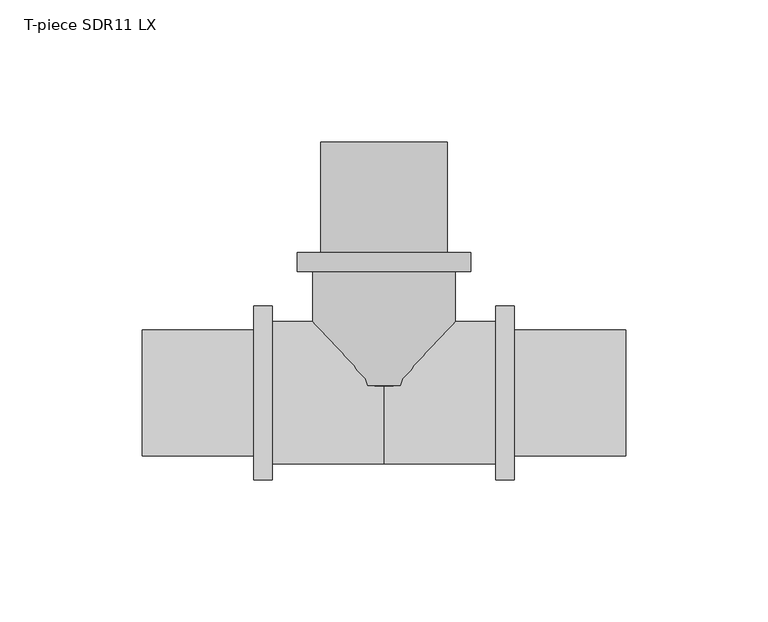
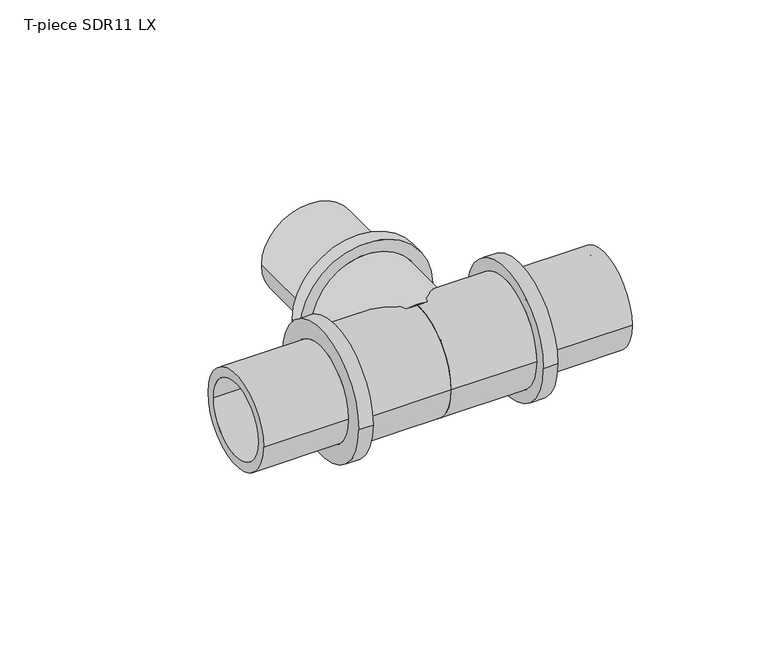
"""IFC4 building model written with IfcOpenShell, lengths in millimetres: pipe fitting geometry, T-piece SDR11 LX : T-piece LX SDR11 LX."""

from ifc_helpers import new_model, si_unit, point, frame, origin, place, context, project, spatial, polyline, circle_curve, ellipse_curve, trimmed, source, transform, mapped, element, save
from ifc_brep_helpers import plane_surface, cylinder_surface, revolved_surface, advanced_brep


def t_piece_sdr11_lx_c61b86e7(model_context):
    return source(origin(), model_context, "Body", "AdvancedBrep", [
        advanced_brep(
        [(25.0, 2.6142056, 0.0), (-25.0, 2.6142056, 0.0), (-25.0, 42.6, 0.0), (25.0, 42.6, 0.0), (17.75, 88.0, 0.0), (-17.75, 88.0, 0.0), (-17.75, 0.0, 0.0), (17.75, 0.0, 0.0), (22.15, 49.2, 0.0), (-22.15, 49.2, 0.0), (-22.15, 88.0, 0.0), (22.15, 88.0, 0.0), (30.5, 42.6, 0.0), (-30.5, 42.6, 0.0), (-30.5, 49.2, 0.0), (30.5, 49.2, 0.0)],
        [
            (0, 1, circle_curve(frame((0.0, 2.6142056, 0.0), z_axis=(0.0, 1.0, 0.0), x_axis=(-1.0, 0.0, 0.0)), 25.0)),
            (1, 2),
            (2, 3, circle_curve(frame((0.0, 42.6, 0.0), z_axis=(0.0, -1.0, 0.0), x_axis=(-1.0, 0.0, 0.0)), 25.0)),
            (3, 0),
            (4, 5, circle_curve(frame((0.0, 88.0, 0.0), z_axis=(0.0, 1.0, 0.0), x_axis=(-1.0, 0.0, 0.0)), 17.75)),
            (5, 6),
            (6, 7, circle_curve(frame((0.0, 0.0, 0.0), z_axis=(0.0, -1.0, 0.0), x_axis=(-1.0, 0.0, 0.0)), 17.75)),
            (7, 4),
            (8, 9, circle_curve(frame((0.0, 49.2, 0.0), z_axis=(0.0, 1.0, 0.0), x_axis=(-1.0, 0.0, 0.0)), 22.15)),
            (9, 10),
            (10, 11, circle_curve(frame((0.0, 88.0, 0.0), z_axis=(0.0, -1.0, 0.0), x_axis=(-1.0, 0.0, 0.0)), 22.15)),
            (11, 8),
            (12, 13, circle_curve(frame((0.0, 42.6, 0.0), z_axis=(0.0, 1.0, 0.0), x_axis=(-1.0, 0.0, 0.0)), 30.5)),
            (13, 14),
            (14, 15, circle_curve(frame((0.0, 49.2, 0.0), z_axis=(0.0, -1.0, 0.0), x_axis=(-1.0, 0.0, 0.0)), 30.5)),
            (15, 12),
            (12, 13, circle_curve(frame((0.0, 42.6, 0.0), z_axis=(0.0, -1.0, 0.0), x_axis=(1.0, 0.0, 0.0)), 30.5)),
            (2, 3, circle_curve(frame((0.0, 42.6, 0.0), z_axis=(0.0, 1.0, 0.0), x_axis=(1.0, 0.0, 0.0)), 25.0)),
            (1, 0, circle_curve(frame((0.0, 2.6142056, 0.0), z_axis=(0.0, 1.0, 0.0), x_axis=(1.0, 0.0, 0.0)), 25.0)),
            (5, 4, circle_curve(frame((0.0, 88.0, 0.0), z_axis=(0.0, 1.0, 0.0), x_axis=(1.0, 0.0, 0.0)), 17.75)),
            (7, 6, circle_curve(frame((0.0, 0.0, 0.0), z_axis=(0.0, -1.0, 0.0), x_axis=(1.0, 0.0, 0.0)), 17.75)),
            (10, 11, circle_curve(frame((0.0, 88.0, 0.0), z_axis=(0.0, 1.0, 0.0), x_axis=(1.0, 0.0, 0.0)), 22.15)),
            (9, 8, circle_curve(frame((0.0, 49.2, 0.0), z_axis=(0.0, 1.0, 0.0), x_axis=(1.0, 0.0, 0.0)), 22.15)),
            (14, 15, circle_curve(frame((0.0, 49.2, 0.0), z_axis=(0.0, 1.0, 0.0), x_axis=(1.0, 0.0, 0.0)), 30.5)),
            (6, 1, circle_curve(frame((-12.9962802, 24.5438821, 0.0), z_axis=(0.0, 0.0, -1.0), x_axis=(0.0, -1.0, 0.0)), 25.0)),
            (0, 7, circle_curve(frame((12.9962802, 24.5438821, 0.0), z_axis=(0.0, 0.0, -1.0), x_axis=(0.0, -1.0, 0.0)), 25.0)),
        ],
        [
            cylinder_surface(frame((0.0, 0.0, 0.0), z_axis=(0.0, -1.0, 0.0), x_axis=(-1.0, 0.0, 0.0)), 25.0),
            revolved_surface(polyline([(-17.75, 0.0, 0.0), (-17.75, 88.0, 0.0)]), (0.0, 0.0, 0.0), (0.0, -1.0, 0.0)),
            cylinder_surface(frame((0.0, 0.0, 0.0), z_axis=(0.0, -1.0, 0.0), x_axis=(-1.0, 0.0, 0.0)), 22.15),
            cylinder_surface(frame((0.0, 0.0, 0.0), z_axis=(0.0, -1.0, 0.0), x_axis=(-1.0, 0.0, 0.0)), 30.5),
            plane_surface(frame((0.0, 42.6, 0.0), z_axis=(0.0, -1.0, 0.0), x_axis=(1.0, 0.0, 0.0))),
            cylinder_surface(frame((0.0, 0.0, 0.0), z_axis=(0.0, -1.0, 0.0), x_axis=(1.0, 0.0, 0.0)), 25.0),
            revolved_surface(polyline([(17.75, 0.0, 0.0), (17.75, 88.0, 0.0)]), (0.0, 0.0, 0.0), (0.0, -1.0, 0.0)),
            plane_surface(frame((0.0, 88.0, 0.0), z_axis=(0.0, 1.0, 0.0), x_axis=(1.0, 0.0, 0.0))),
            cylinder_surface(frame((0.0, 0.0, 0.0), z_axis=(0.0, -1.0, 0.0), x_axis=(1.0, 0.0, 0.0)), 22.15),
            plane_surface(frame((0.0, 49.2, 0.0), z_axis=(0.0, 1.0, 0.0), x_axis=(1.0, 0.0, 0.0))),
            cylinder_surface(frame((0.0, 0.0, 0.0), z_axis=(0.0, -1.0, 0.0), x_axis=(1.0, 0.0, 0.0)), 30.5),
            revolved_surface(trimmed(ellipse_curve(frame((-12.9962802, 24.5438821, 0.0), z_axis=(0.0, 0.0, 1.0), x_axis=(0.0, -1.0, 0.0)), 25.0, 25.0), [point((-25.0, 2.6142056, 0.0))], [point((-17.75, 0.0, 0.0))], True, "CARTESIAN"), (0.0, 0.0, 0.0), (0.0, -1.0, 0.0)),
            revolved_surface(trimmed(ellipse_curve(frame((12.9962802, 24.5438821, 0.0), z_axis=(0.0, 0.0, -1.0), x_axis=(0.0, -1.0, 0.0)), 25.0, 25.0), [point((25.0, 2.6142056, 0.0))], [point((17.75, 0.0, 0.0))], True, "CARTESIAN"), (0.0, 0.0, 0.0), (0.0, -1.0, 0.0)),
        ],
        [
            (0, [[1, 2, 3, 4]]),
            (1, [[5, 6, 7, 8]]),
            (2, [[9, 10, 11, 12]]),
            (3, [[13, 14, 15, 16]]),
            (4, [[17, -13], [18, -3]]),
            (5, [[19, -4, -18, -2]]),
            (6, [[20, -8, 21, -6]]),
            (7, [[22, -11], [-20, -5]]),
            (8, [[23, -12, -22, -10]]),
            (9, [[24, -15], [-23, -9]]),
            (10, [[-17, -16, -24, -14]]),
            (11, [[-7, 25, -1, 26]]),
            (12, [[-21, -26, -19, -25]]),
        ],
    ),
        advanced_brep(
        [(39.2, 25.0, 0.0), (39.2, -25.0, 0.0), (0.0, -25.0, 0.0), (0.0, 25.0, 0.0), (0.0, 17.75, 0.0), (0.0, -17.75, 0.0), (84.8, -17.75, 0.0), (84.8, 17.75, 0.0), (84.8, 22.15, 0.0), (84.8, -22.15, 0.0), (45.8, -22.15, 0.0), (45.8, 22.15, 0.0), (45.8, 30.5, 0.0), (45.8, -30.5, 0.0), (39.2, -30.5, 0.0), (39.2, 30.5, 0.0)],
        [
            (0, 1, circle_curve(frame((39.2, 0.0, 0.0), z_axis=(-1.0, 0.0, 0.0), x_axis=(0.0, -1.0, 0.0)), 25.0)),
            (1, 2),
            (2, 3, circle_curve(frame((0.0, 0.0, 0.0), z_axis=(1.0, 0.0, 0.0), x_axis=(0.0, -1.0, 0.0)), 25.0)),
            (3, 0),
            (4, 5, circle_curve(frame((0.0, 0.0, 0.0), z_axis=(-1.0, 0.0, 0.0), x_axis=(0.0, -1.0, 0.0)), 17.75)),
            (5, 6),
            (6, 7, circle_curve(frame((84.8, 0.0, 0.0), z_axis=(1.0, 0.0, 0.0), x_axis=(0.0, -1.0, 0.0)), 17.75)),
            (7, 4),
            (8, 9, circle_curve(frame((84.8, 0.0, 0.0), z_axis=(-1.0, 0.0, 0.0), x_axis=(0.0, -1.0, 0.0)), 22.15)),
            (9, 10),
            (10, 11, circle_curve(frame((45.8, 0.0, 0.0), z_axis=(1.0, 0.0, 0.0), x_axis=(0.0, -1.0, 0.0)), 22.15)),
            (11, 8),
            (12, 13, circle_curve(frame((45.8, 0.0, 0.0), z_axis=(-1.0, 0.0, 0.0), x_axis=(0.0, -1.0, 0.0)), 30.5)),
            (13, 14),
            (14, 15, circle_curve(frame((39.2, 0.0, 0.0), z_axis=(1.0, 0.0, 0.0), x_axis=(0.0, -1.0, 0.0)), 30.5)),
            (15, 12),
            (14, 15, circle_curve(frame((39.2, 0.0, 0.0), z_axis=(-1.0, 0.0, 0.0), x_axis=(0.0, 1.0, 0.0)), 30.5)),
            (0, 1, circle_curve(frame((39.2, 0.0, 0.0), z_axis=(1.0, 0.0, 0.0), x_axis=(0.0, 1.0, 0.0)), 25.0)),
            (3, 2, circle_curve(frame((0.0, 0.0, 0.0), z_axis=(1.0, 0.0, 0.0), x_axis=(0.0, 1.0, 0.0)), 25.0)),
            (4, 5, circle_curve(frame((0.0, 0.0, 0.0), z_axis=(1.0, 0.0, 0.0), x_axis=(0.0, 1.0, 0.0)), 17.75)),
            (7, 6, circle_curve(frame((84.8, 0.0, 0.0), z_axis=(1.0, 0.0, 0.0), x_axis=(0.0, 1.0, 0.0)), 17.75)),
            (8, 9, circle_curve(frame((84.8, 0.0, 0.0), z_axis=(1.0, 0.0, 0.0), x_axis=(0.0, 1.0, 0.0)), 22.15)),
            (11, 10, circle_curve(frame((45.8, 0.0, 0.0), z_axis=(1.0, 0.0, 0.0), x_axis=(0.0, 1.0, 0.0)), 22.15)),
            (12, 13, circle_curve(frame((45.8, 0.0, 0.0), z_axis=(1.0, 0.0, 0.0), x_axis=(0.0, 1.0, 0.0)), 30.5)),
        ],
        [
            cylinder_surface(frame((0.0, 0.0, 0.0), z_axis=(1.0, 0.0, 0.0), x_axis=(0.0, -1.0, 0.0)), 25.0),
            revolved_surface(polyline([(84.8, -17.75, 0.0), (0.0, -17.75, 0.0)]), (0.0, 0.0, 0.0), (1.0, 0.0, 0.0)),
            cylinder_surface(frame((0.0, 0.0, 0.0), z_axis=(1.0, 0.0, 0.0), x_axis=(0.0, -1.0, 0.0)), 22.15),
            cylinder_surface(frame((0.0, 0.0, 0.0), z_axis=(1.0, 0.0, 0.0), x_axis=(0.0, -1.0, 0.0)), 30.5),
            plane_surface(frame((39.2, 0.0, 0.0), z_axis=(-1.0, 0.0, 0.0), x_axis=(0.0, 1.0, 0.0))),
            cylinder_surface(frame((0.0, 0.0, 0.0), z_axis=(1.0, 0.0, 0.0), x_axis=(0.0, 1.0, 0.0)), 25.0),
            plane_surface(frame((0.0, 0.0, 0.0), z_axis=(-1.0, 0.0, 0.0), x_axis=(0.0, 1.0, 0.0))),
            revolved_surface(polyline([(84.8, 17.75, 0.0), (0.0, 17.75, 0.0)]), (0.0, 0.0, 0.0), (1.0, 0.0, 0.0)),
            plane_surface(frame((84.8, 0.0, 0.0), z_axis=(1.0, 0.0, 0.0), x_axis=(0.0, 1.0, 0.0))),
            cylinder_surface(frame((0.0, 0.0, 0.0), z_axis=(1.0, 0.0, 0.0), x_axis=(0.0, 1.0, 0.0)), 22.15),
            plane_surface(frame((45.8, 0.0, 0.0), z_axis=(1.0, 0.0, 0.0), x_axis=(0.0, 1.0, 0.0))),
            cylinder_surface(frame((0.0, 0.0, 0.0), z_axis=(1.0, 0.0, 0.0), x_axis=(0.0, 1.0, 0.0)), 30.5),
        ],
        [
            (0, [[1, 2, 3, 4]]),
            (1, [[5, 6, 7, 8]]),
            (2, [[9, 10, 11, 12]]),
            (3, [[13, 14, 15, 16]]),
            (4, [[17, -15], [18, -1]]),
            (5, [[-18, -4, 19, -2]]),
            (6, [[-19, -3], [20, -5]]),
            (7, [[-20, -8, 21, -6]]),
            (8, [[22, -9], [-21, -7]]),
            (9, [[-22, -12, 23, -10]]),
            (10, [[24, -13], [-23, -11]]),
            (11, [[-24, -16, -17, -14]]),
        ],
    ),
        advanced_brep(
        [(0.0, 25.0, 0.0), (0.0, -25.0, 0.0), (-39.2, -25.0, 0.0), (-39.2, 25.0, 0.0), (-84.8, 17.75, 0.0), (-84.8, -17.75, 0.0), (0.0, -17.75, 0.0), (0.0, 17.75, 0.0), (-45.8, 22.15, 0.0), (-45.8, -22.15, 0.0), (-84.8, -22.15, 0.0), (-84.8, 22.15, 0.0), (-39.2, 30.5, 0.0), (-39.2, -30.5, 0.0), (-45.8, -30.5, 0.0), (-45.8, 30.5, 0.0)],
        [
            (0, 1, circle_curve(frame((0.0, 0.0, 0.0), z_axis=(-1.0, 0.0, 0.0), x_axis=(0.0, -1.0, 0.0)), 25.0)),
            (1, 2),
            (2, 3, circle_curve(frame((-39.2, 0.0, 0.0), z_axis=(1.0, 0.0, 0.0), x_axis=(0.0, -1.0, 0.0)), 25.0)),
            (3, 0),
            (4, 5, circle_curve(frame((-84.8, 0.0, 0.0), z_axis=(-1.0, 0.0, 0.0), x_axis=(0.0, -1.0, 0.0)), 17.75)),
            (5, 6),
            (6, 7, circle_curve(frame((0.0, 0.0, 0.0), z_axis=(1.0, 0.0, 0.0), x_axis=(0.0, -1.0, 0.0)), 17.75)),
            (7, 4),
            (8, 9, circle_curve(frame((-45.8, 0.0, 0.0), z_axis=(-1.0, 0.0, 0.0), x_axis=(0.0, -1.0, 0.0)), 22.15)),
            (9, 10),
            (10, 11, circle_curve(frame((-84.8, 0.0, 0.0), z_axis=(1.0, 0.0, 0.0), x_axis=(0.0, -1.0, 0.0)), 22.15)),
            (11, 8),
            (12, 13, circle_curve(frame((-39.2, 0.0, 0.0), z_axis=(-1.0, 0.0, 0.0), x_axis=(0.0, -1.0, 0.0)), 30.5)),
            (13, 14),
            (14, 15, circle_curve(frame((-45.8, 0.0, 0.0), z_axis=(1.0, 0.0, 0.0), x_axis=(0.0, -1.0, 0.0)), 30.5)),
            (15, 12),
            (12, 13, circle_curve(frame((-39.2, 0.0, 0.0), z_axis=(1.0, 0.0, 0.0), x_axis=(0.0, 1.0, 0.0)), 30.5)),
            (2, 3, circle_curve(frame((-39.2, 0.0, 0.0), z_axis=(-1.0, 0.0, 0.0), x_axis=(0.0, 1.0, 0.0)), 25.0)),
            (1, 0, circle_curve(frame((0.0, 0.0, 0.0), z_axis=(-1.0, 0.0, 0.0), x_axis=(0.0, 1.0, 0.0)), 25.0)),
            (6, 7, circle_curve(frame((0.0, 0.0, 0.0), z_axis=(-1.0, 0.0, 0.0), x_axis=(0.0, 1.0, 0.0)), 17.75)),
            (5, 4, circle_curve(frame((-84.8, 0.0, 0.0), z_axis=(-1.0, 0.0, 0.0), x_axis=(0.0, 1.0, 0.0)), 17.75)),
            (10, 11, circle_curve(frame((-84.8, 0.0, 0.0), z_axis=(-1.0, 0.0, 0.0), x_axis=(0.0, 1.0, 0.0)), 22.15)),
            (9, 8, circle_curve(frame((-45.8, 0.0, 0.0), z_axis=(-1.0, 0.0, 0.0), x_axis=(0.0, 1.0, 0.0)), 22.15)),
            (14, 15, circle_curve(frame((-45.8, 0.0, 0.0), z_axis=(-1.0, 0.0, 0.0), x_axis=(0.0, 1.0, 0.0)), 30.5)),
        ],
        [
            cylinder_surface(frame((0.0, 0.0, 0.0), z_axis=(1.0, 0.0, 0.0), x_axis=(0.0, -1.0, 0.0)), 25.0),
            revolved_surface(polyline([(0.0, -17.75, 0.0), (-84.8, -17.75, 0.0)]), (0.0, 0.0, 0.0), (1.0, 0.0, 0.0)),
            cylinder_surface(frame((0.0, 0.0, 0.0), z_axis=(1.0, 0.0, 0.0), x_axis=(0.0, -1.0, 0.0)), 22.15),
            cylinder_surface(frame((0.0, 0.0, 0.0), z_axis=(1.0, 0.0, 0.0), x_axis=(0.0, -1.0, 0.0)), 30.5),
            plane_surface(frame((-39.2, 0.0, 0.0), z_axis=(1.0, 0.0, 0.0), x_axis=(0.0, 1.0, 0.0))),
            cylinder_surface(frame((0.0, 0.0, 0.0), z_axis=(1.0, 0.0, 0.0), x_axis=(0.0, 1.0, 0.0)), 25.0),
            plane_surface(frame((0.0, 0.0, 0.0), z_axis=(1.0, 0.0, 0.0), x_axis=(0.0, 1.0, 0.0))),
            revolved_surface(polyline([(0.0, 17.75, 0.0), (-84.8, 17.75, 0.0)]), (0.0, 0.0, 0.0), (1.0, 0.0, 0.0)),
            plane_surface(frame((-84.8, 0.0, 0.0), z_axis=(-1.0, 0.0, 0.0), x_axis=(0.0, 1.0, 0.0))),
            cylinder_surface(frame((0.0, 0.0, 0.0), z_axis=(1.0, 0.0, 0.0), x_axis=(0.0, 1.0, 0.0)), 22.15),
            plane_surface(frame((-45.8, 0.0, 0.0), z_axis=(-1.0, 0.0, 0.0), x_axis=(0.0, 1.0, 0.0))),
            cylinder_surface(frame((0.0, 0.0, 0.0), z_axis=(1.0, 0.0, 0.0), x_axis=(0.0, 1.0, 0.0)), 30.5),
        ],
        [
            (0, [[1, 2, 3, 4]]),
            (1, [[5, 6, 7, 8]]),
            (2, [[9, 10, 11, 12]]),
            (3, [[13, 14, 15, 16]]),
            (4, [[17, -13], [18, -3]]),
            (5, [[19, -4, -18, -2]]),
            (6, [[-19, -1], [20, -7]]),
            (7, [[21, -8, -20, -6]]),
            (8, [[22, -11], [-21, -5]]),
            (9, [[23, -12, -22, -10]]),
            (10, [[24, -15], [-23, -9]]),
            (11, [[-17, -16, -24, -14]]),
        ],
    ),
    ])


if __name__ == "__main__":
    model = new_model("IFC4")
    model_context = context("Model", 3, world=origin())
    ifc_project = project(units=[si_unit("LENGTHUNIT", "METRE", prefix="MILLI")], contexts=[model_context])
    site = spatial("IfcSite", under=ifc_project)
    building = spatial("IfcBuilding", under=site)
    placement = place(None, origin())
    t_piece_sdr11_lx_shape = t_piece_sdr11_lx_c61b86e7(model_context)
    element("IfcPipeFitting", 1, ObjectType="T-piece SDR11 LX : T-piece LX SDR11 LX", at=placement, inside=building, context=model_context, shape_type="MappedRepresentation", body=[
        mapped(t_piece_sdr11_lx_shape, transform((0.0, 0.0, 0.0), x_axis=(1.0, 0.0, 0.0), y_axis=(0.0, 1.0, 0.0), z_axis=(0.0, 0.0, 1.0))),
    ])
    save(model, "model.ifc")
